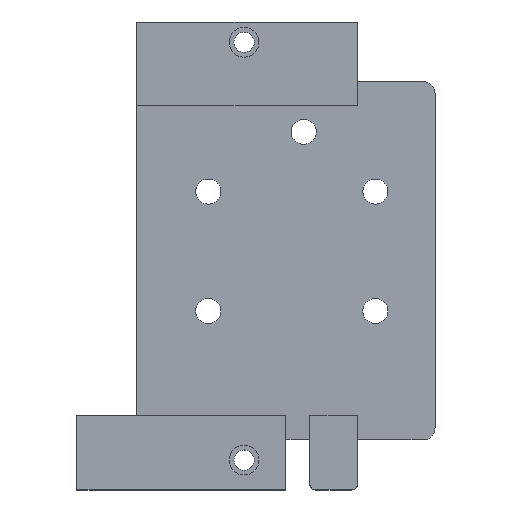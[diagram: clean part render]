
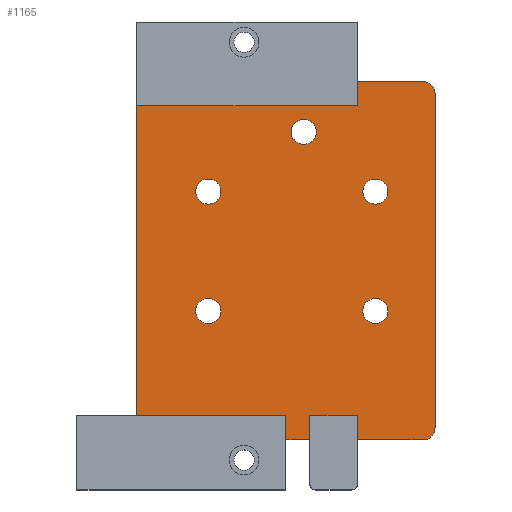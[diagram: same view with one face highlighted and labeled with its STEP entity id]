
A CAD part, top view. The second image highlights one B-rep face of the part: STEP entity #1165.
In plain terms, the highlighted planar face has unit normal (0, 0, 1).
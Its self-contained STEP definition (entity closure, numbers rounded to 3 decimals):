
#96=CARTESIAN_POINT('',(7.5,5.8,1.5));
#97=DIRECTION('',(0.,0.,1.));
#98=DIRECTION('',(1.,0.,0.));
#99=AXIS2_PLACEMENT_3D('',#96,#97,#98);
#101=CARTESIAN_POINT('',(7.5,5.8,1.5));
#102=DIRECTION('',(0.,0.,1.));
#103=DIRECTION('',(-1.,0.,0.));
#104=AXIS2_PLACEMENT_3D('',#101,#102,#103);
#106=CARTESIAN_POINT('',(-6.5,5.8,1.5));
#107=DIRECTION('',(0.,0.,1.));
#108=DIRECTION('',(1.,0.,0.));
#109=AXIS2_PLACEMENT_3D('',#106,#107,#108);
#111=CARTESIAN_POINT('',(-6.5,5.8,1.5));
#112=DIRECTION('',(0.,0.,1.));
#113=DIRECTION('',(-1.,0.,0.));
#114=AXIS2_PLACEMENT_3D('',#111,#112,#113);
#116=CARTESIAN_POINT('',(7.5,-4.2,1.5));
#117=DIRECTION('',(0.,0.,1.));
#118=DIRECTION('',(1.,0.,0.));
#119=AXIS2_PLACEMENT_3D('',#116,#117,#118);
#121=CARTESIAN_POINT('',(7.5,-4.2,1.5));
#122=DIRECTION('',(0.,0.,1.));
#123=DIRECTION('',(-1.,0.,0.));
#124=AXIS2_PLACEMENT_3D('',#121,#122,#123);
#126=CARTESIAN_POINT('',(-6.5,-4.2,1.5));
#127=DIRECTION('',(0.,0.,1.));
#128=DIRECTION('',(1.,0.,0.));
#129=AXIS2_PLACEMENT_3D('',#126,#127,#128);
#131=CARTESIAN_POINT('',(-6.5,-4.2,1.5));
#132=DIRECTION('',(0.,0.,1.));
#133=DIRECTION('',(-1.,0.,0.));
#134=AXIS2_PLACEMENT_3D('',#131,#132,#133);
#136=CARTESIAN_POINT('',(1.5,10.8,1.5));
#137=DIRECTION('',(0.,0.,1.));
#138=DIRECTION('',(1.,0.,0.));
#139=AXIS2_PLACEMENT_3D('',#136,#137,#138);
#141=CARTESIAN_POINT('',(1.5,10.8,1.5));
#142=DIRECTION('',(0.,0.,1.));
#143=DIRECTION('',(-1.,0.,0.));
#144=AXIS2_PLACEMENT_3D('',#141,#142,#143);
#146=DIRECTION('',(1.,0.,0.));
#147=VECTOR('',#146,4.);
#148=CARTESIAN_POINT('',(2.,-13.,1.5));
#149=LINE('',#148,#147);
#150=DIRECTION('',(0.,1.,0.));
#151=VECTOR('',#150,2.);
#152=CARTESIAN_POINT('',(2.,-15.,1.5));
#153=LINE('',#152,#151);
#154=DIRECTION('',(0.,-1.,0.));
#155=VECTOR('',#154,2.);
#156=CARTESIAN_POINT('',(0.,-13.,1.5));
#157=LINE('',#156,#155);
#158=DIRECTION('',(1.,0.,0.));
#159=VECTOR('',#158,12.5);
#160=CARTESIAN_POINT('',(-12.5,-13.,1.5));
#161=LINE('',#160,#159);
#162=DIRECTION('',(0.,-1.,0.));
#163=VECTOR('',#162,26.);
#164=CARTESIAN_POINT('',(-12.5,13.,1.5));
#165=LINE('',#164,#163);
#166=DIRECTION('',(1.,0.,0.));
#167=VECTOR('',#166,18.5);
#168=CARTESIAN_POINT('',(-12.5,13.,1.5));
#169=LINE('',#168,#167);
#170=DIRECTION('',(0.,-1.,0.));
#171=VECTOR('',#170,2.);
#172=CARTESIAN_POINT('',(6.,15.,1.5));
#173=LINE('',#172,#171);
#174=DIRECTION('',(-1.,0.,0.));
#175=VECTOR('',#174,5.5);
#176=CARTESIAN_POINT('',(11.5,15.,1.5));
#177=LINE('',#176,#175);
#178=CARTESIAN_POINT('',(11.5,14.,1.5));
#179=DIRECTION('',(0.,0.,1.));
#180=DIRECTION('',(1.,0.,0.));
#181=AXIS2_PLACEMENT_3D('',#178,#179,#180);
#183=DIRECTION('',(0.,1.,0.));
#184=VECTOR('',#183,28.);
#185=CARTESIAN_POINT('',(12.5,-14.,1.5));
#186=LINE('',#185,#184);
#187=CARTESIAN_POINT('',(11.5,-14.,1.5));
#188=DIRECTION('',(0.,0.,1.));
#189=DIRECTION('',(0.,-1.,0.));
#190=AXIS2_PLACEMENT_3D('',#187,#188,#189);
#192=DIRECTION('',(1.,0.,0.));
#193=VECTOR('',#192,5.5);
#194=CARTESIAN_POINT('',(6.,-15.,1.5));
#195=LINE('',#194,#193);
#196=DIRECTION('',(0.,1.,0.));
#197=VECTOR('',#196,2.);
#198=CARTESIAN_POINT('',(6.,-15.,1.5));
#199=LINE('',#198,#197);
#467=DIRECTION('',(1.,0.,0.));
#468=VECTOR('',#467,2.);
#469=CARTESIAN_POINT('',(0.,-15.,1.5));
#470=LINE('',#469,#468);
#806=CARTESIAN_POINT('',(-12.5,13.,1.5));
#807=CARTESIAN_POINT('',(6.,13.,1.5));
#808=VERTEX_POINT('',#806);
#809=VERTEX_POINT('',#807);
#810=CARTESIAN_POINT('',(6.,15.,1.5));
#811=VERTEX_POINT('',#810);
#812=CARTESIAN_POINT('',(6.,-15.,1.5));
#813=CARTESIAN_POINT('',(6.,-13.,1.5));
#814=VERTEX_POINT('',#812);
#815=VERTEX_POINT('',#813);
#816=CARTESIAN_POINT('',(-12.5,-13.,1.5));
#817=VERTEX_POINT('',#816);
#820=CARTESIAN_POINT('',(8.55,5.8,1.5));
#821=CARTESIAN_POINT('',(6.45,5.8,1.5));
#822=VERTEX_POINT('',#820);
#823=VERTEX_POINT('',#821);
#828=CARTESIAN_POINT('',(2.55,10.8,1.5));
#829=CARTESIAN_POINT('',(0.45,10.8,1.5));
#830=VERTEX_POINT('',#828);
#831=VERTEX_POINT('',#829);
#884=CARTESIAN_POINT('',(11.5,-15.,1.5));
#885=VERTEX_POINT('',#884);
#886=CARTESIAN_POINT('',(12.5,-14.,1.5));
#887=VERTEX_POINT('',#886);
#892=CARTESIAN_POINT('',(12.5,14.,1.5));
#893=VERTEX_POINT('',#892);
#894=CARTESIAN_POINT('',(11.5,15.,1.5));
#895=VERTEX_POINT('',#894);
#896=CARTESIAN_POINT('',(-5.45,5.8,1.5));
#897=CARTESIAN_POINT('',(-7.55,5.8,1.5));
#898=VERTEX_POINT('',#896);
#899=VERTEX_POINT('',#897);
#900=CARTESIAN_POINT('',(8.55,-4.2,1.5));
#901=CARTESIAN_POINT('',(6.45,-4.2,1.5));
#902=VERTEX_POINT('',#900);
#903=VERTEX_POINT('',#901);
#904=CARTESIAN_POINT('',(-5.45,-4.2,1.5));
#905=CARTESIAN_POINT('',(-7.55,-4.2,1.5));
#906=VERTEX_POINT('',#904);
#907=VERTEX_POINT('',#905);
#908=CARTESIAN_POINT('',(0.,-15.,1.5));
#909=CARTESIAN_POINT('',(2.,-15.,1.5));
#910=VERTEX_POINT('',#908);
#911=VERTEX_POINT('',#909);
#918=CARTESIAN_POINT('',(0.,-13.,1.5));
#919=VERTEX_POINT('',#918);
#920=CARTESIAN_POINT('',(2.,-13.,1.5));
#922=VERTEX_POINT('',#920);
#1102=CARTESIAN_POINT('',(0.,0.,1.5));
#1103=DIRECTION('',(0.,0.,1.));
#1104=DIRECTION('',(1.,0.,0.));
#1105=AXIS2_PLACEMENT_3D('',#1102,#1103,#1104);
#1106=PLANE('',#1105);
#1108=ORIENTED_EDGE('',*,*,#1107,.F.);
#1110=ORIENTED_EDGE('',*,*,#1109,.F.);
#1112=ORIENTED_EDGE('',*,*,#1111,.F.);
#1114=ORIENTED_EDGE('',*,*,#1113,.F.);
#1116=ORIENTED_EDGE('',*,*,#1115,.F.);
#1118=ORIENTED_EDGE('',*,*,#1117,.F.);
#1120=ORIENTED_EDGE('',*,*,#1119,.T.);
#1122=ORIENTED_EDGE('',*,*,#1121,.F.);
#1124=ORIENTED_EDGE('',*,*,#1123,.F.);
#1126=ORIENTED_EDGE('',*,*,#1125,.F.);
#1128=ORIENTED_EDGE('',*,*,#1127,.F.);
#1130=ORIENTED_EDGE('',*,*,#1129,.F.);
#1132=ORIENTED_EDGE('',*,*,#1131,.F.);
#1134=ORIENTED_EDGE('',*,*,#1133,.T.);
#1135=EDGE_LOOP('',(#1108,#1110,#1112,#1114,#1116,#1118,#1120,#1122,#1124,#1126,
#1128,#1130,#1132,#1134));
#1136=FACE_OUTER_BOUND('',#1135,.F.);
#1138=ORIENTED_EDGE('',*,*,#1137,.T.);
#1140=ORIENTED_EDGE('',*,*,#1139,.T.);
#1141=EDGE_LOOP('',(#1138,#1140));
#1142=FACE_BOUND('',#1141,.F.);
#1144=ORIENTED_EDGE('',*,*,#1143,.T.);
#1146=ORIENTED_EDGE('',*,*,#1145,.T.);
#1147=EDGE_LOOP('',(#1144,#1146));
#1148=FACE_BOUND('',#1147,.F.);
#1150=ORIENTED_EDGE('',*,*,#1149,.T.);
#1152=ORIENTED_EDGE('',*,*,#1151,.T.);
#1153=EDGE_LOOP('',(#1150,#1152));
#1154=FACE_BOUND('',#1153,.F.);
#1155=ORIENTED_EDGE('',*,*,#1082,.T.);
#1156=ORIENTED_EDGE('',*,*,#1096,.T.);
#1157=EDGE_LOOP('',(#1155,#1156));
#1158=FACE_BOUND('',#1157,.F.);
#1160=ORIENTED_EDGE('',*,*,#1159,.T.);
#1162=ORIENTED_EDGE('',*,*,#1161,.T.);
#1163=EDGE_LOOP('',(#1160,#1162));
#1164=FACE_BOUND('',#1163,.F.);
#1165=ADVANCED_FACE('',(#1136,#1142,#1148,#1154,#1158,#1164),#1106,.T.);
#100=CIRCLE('',#99,1.05);
#105=CIRCLE('',#104,1.05);
#110=CIRCLE('',#109,1.05);
#115=CIRCLE('',#114,1.05);
#120=CIRCLE('',#119,1.05);
#125=CIRCLE('',#124,1.05);
#130=CIRCLE('',#129,1.05);
#135=CIRCLE('',#134,1.05);
#140=CIRCLE('',#139,1.05);
#145=CIRCLE('',#144,1.05);
#182=CIRCLE('',#181,1.);
#191=CIRCLE('',#190,1.);
#1082=EDGE_CURVE('',#830,#831,#140,.T.);
#1096=EDGE_CURVE('',#831,#830,#145,.T.);
#1107=EDGE_CURVE('',#922,#815,#149,.T.);
#1109=EDGE_CURVE('',#911,#922,#153,.T.);
#1111=EDGE_CURVE('',#910,#911,#470,.T.);
#1113=EDGE_CURVE('',#919,#910,#157,.T.);
#1115=EDGE_CURVE('',#817,#919,#161,.T.);
#1117=EDGE_CURVE('',#808,#817,#165,.T.);
#1119=EDGE_CURVE('',#808,#809,#169,.T.);
#1121=EDGE_CURVE('',#811,#809,#173,.T.);
#1123=EDGE_CURVE('',#895,#811,#177,.T.);
#1125=EDGE_CURVE('',#893,#895,#182,.T.);
#1127=EDGE_CURVE('',#887,#893,#186,.T.);
#1129=EDGE_CURVE('',#885,#887,#191,.T.);
#1131=EDGE_CURVE('',#814,#885,#195,.T.);
#1133=EDGE_CURVE('',#814,#815,#199,.T.);
#1137=EDGE_CURVE('',#898,#899,#110,.T.);
#1139=EDGE_CURVE('',#899,#898,#115,.T.);
#1143=EDGE_CURVE('',#902,#903,#120,.T.);
#1145=EDGE_CURVE('',#903,#902,#125,.T.);
#1149=EDGE_CURVE('',#906,#907,#130,.T.);
#1151=EDGE_CURVE('',#907,#906,#135,.T.);
#1159=EDGE_CURVE('',#822,#823,#100,.T.);
#1161=EDGE_CURVE('',#823,#822,#105,.T.);
